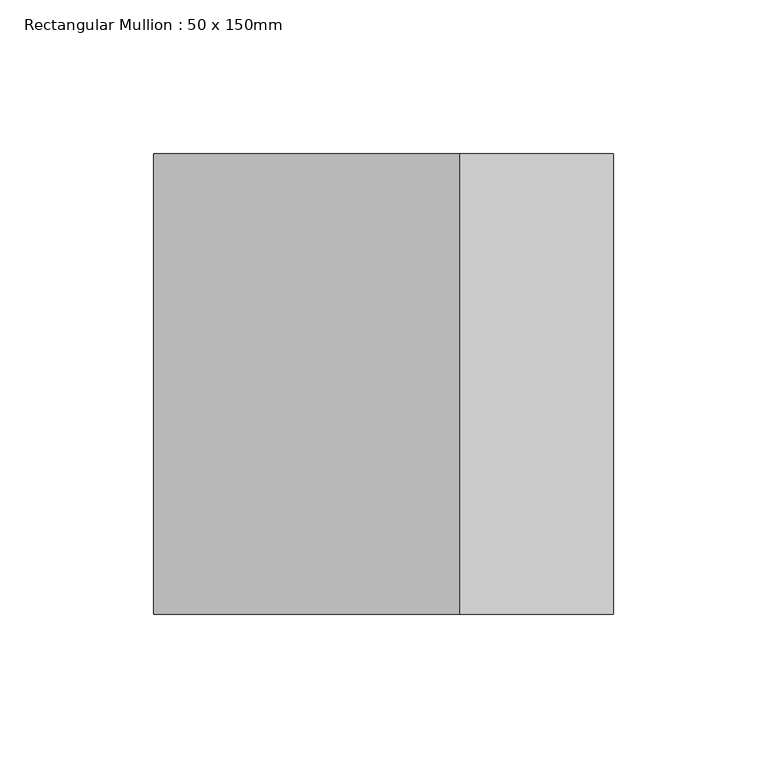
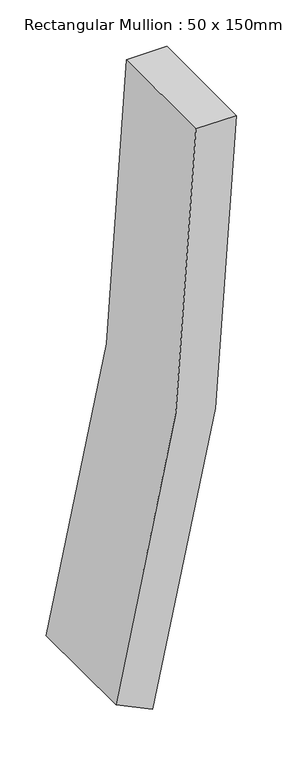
"""IFC4 building model written with IfcOpenShell, lengths in millimetres: member geometry, Rectangular Mullion : 50 x 150mm."""

from ifc_helpers import new_model, si_unit, point, frame, frame_2d, origin, place, context, project, spatial, polyline, circle_curve, trimmed, segment, composite_curve, outline, extrude, source, transform, mapped, element, save


def rectangular_mullion_50_x_150mm_af558dda(model_context):
    return source(origin(), model_context, "Body", "SweptSolid", [
        extrude(outline(composite_curve([segment(trimmed(circle_curve(frame_2d((0.0, -2710.0942185)), 2710.0942185), [point((-744.0822606, -104.1486583))], [point((0.0, 0.0))], False, "CARTESIAN"), True, "CONTINUOUS"), segment(polyline([(0.0, 0.0), (0.0, -50.0)]), True, "CONTINUOUS"), segment(trimmed(circle_curve(frame_2d((0.0, -2710.0942185)), 2660.0942185), [point((0.0, -50.0))], [point((-722.2982552, -149.9406134))], True, "CARTESIAN"), True, "CONTINUOUS"), segment(polyline([(-722.2982552, -149.9406134), (-744.0822606, -104.1486583)]), True, "CONTINUOUS")], self_intersect=False)), frame((0.0, -75.0, 0.0), z_axis=(0.0, 1.0, 0.0), x_axis=(0.0, 0.0, 1.0)), (0.0, 0.0, 1.0), 150.0),
    ])


if __name__ == "__main__":
    model = new_model("IFC4")
    model_context = context("Model", 3, world=origin())
    ifc_project = project(units=[si_unit("LENGTHUNIT", "METRE", prefix="MILLI")], contexts=[model_context])
    site = spatial("IfcSite", under=ifc_project)
    building = spatial("IfcBuilding", under=site)
    placement = place(None, origin())
    rectangular_mullion_50_x_150mm_shape = rectangular_mullion_50_x_150mm_af558dda(model_context)
    element("IfcMember", 1, ObjectType="Rectangular Mullion : 50 x 150mm", at=placement, inside=building, context=model_context, shape_type="MappedRepresentation", body=[
        mapped(rectangular_mullion_50_x_150mm_shape, transform((0.0, 0.0, 0.0), x_axis=(1.0, 0.0, 0.0), y_axis=(0.0, 1.0, 0.0), z_axis=(0.0, 0.0, 1.0))),
    ])
    save(model, "model.ifc")
